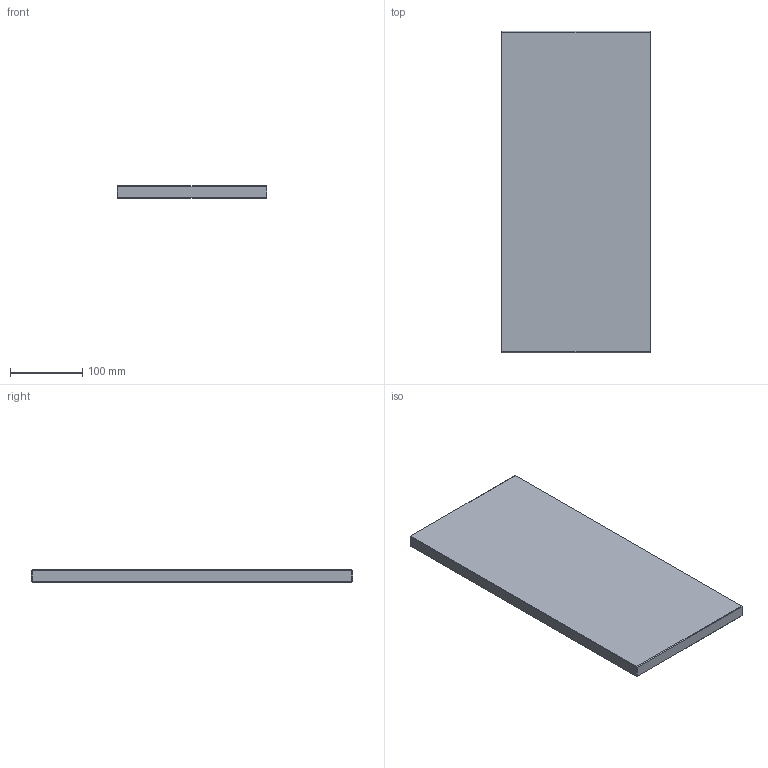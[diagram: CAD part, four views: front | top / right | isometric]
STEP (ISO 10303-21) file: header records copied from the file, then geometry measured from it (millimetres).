
FILE_DESCRIPTION (( 'STEP AP214' ), '1' );
FILE_NAME ('CPE-P-296x446x17.STEP', '2021-03-25T13:45:44', ( '' ), ( '' ), 'SwSTEP 2.0', 'SolidWorks 2018', '' );
FILE_SCHEMA (( 'AUTOMOTIVE_DESIGN' ));
Length unit declared in the file: millimetre
Products named in the file (1): CPE-P-296x446x17
Bounding box: 208 x 446 x 17 mm (x, y, z)
Volume: 1575719.3 mm3; surface area: 206196.7 mm2
Topology: 1 solids, 1 shells, 26 faces, 48 edges, 24 vertices
Faces by surface type: plane 26
Entity records: 634 total; most frequent: DIRECTION 102, CARTESIAN_POINT 99, ORIENTED_EDGE 96, EDGE_CURVE 48, VECTOR 48, LINE 48, AXIS2_PLACEMENT_3D 27, ADVANCED_FACE 26
